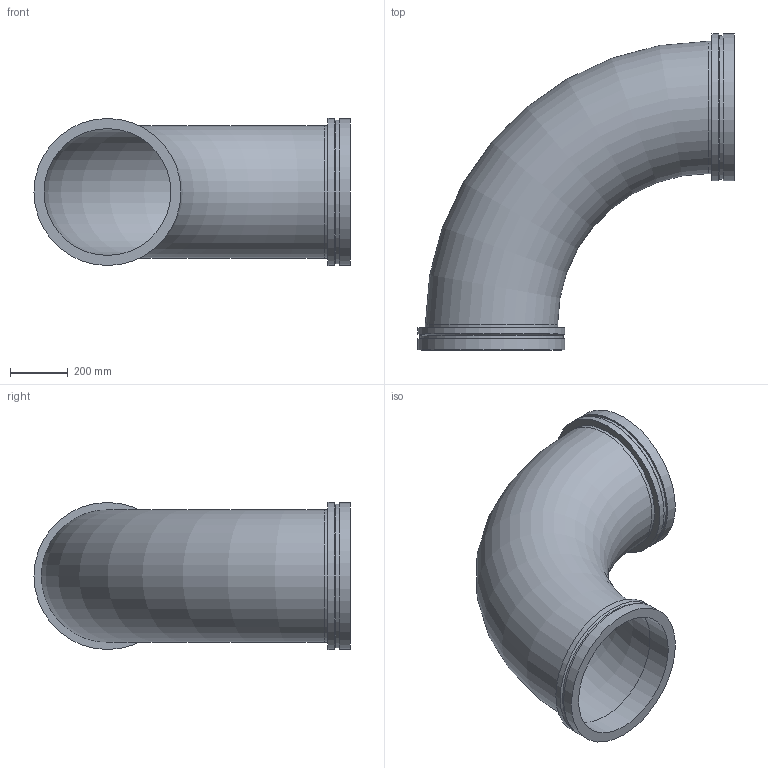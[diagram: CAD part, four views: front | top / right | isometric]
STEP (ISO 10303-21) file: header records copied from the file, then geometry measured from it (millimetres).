
FILE_DESCRIPTION(/* description */ ('VIC 90 DEG ELBOW No W100 VR','CAx-IF Rec.Pracs.---Representation and Presentation of Product Manufacturing Information (PMI)---4.0---2014-10-13'),/* implementation_level */ '2;1');
FILE_NAME(/* name */ 'C:\Users\kkamble\AppData\Roaming\Autodesk\ApplicationPlugins\Back Up\Victaulic_Vic-Ring_Elbow 90 Deg LR_No W100 VR (AGR)\Victaulic_Vic-Ring_Elbow 90 Deg LR_No W100 VR (AGR)_18 (450).stp',/* time_stamp */ '2020-09-10T11:43:48+05:00',/* author */ ('cps_temp'),/* organization */ ('Victaulic'),/* preprocessor_version */ 'ST-DEVELOPER v17.2',/* originating_system */ 'Autodesk Inventor 2019',/* authorisation */ '');
FILE_SCHEMA (('AP242_MANAGED_MODEL_BASED_3D_ENGINEERING_MIM_LF { 1 0 10303 442 1 1 4 }'));
Length unit declared in the file: inch
Products named in the file (1): W100 VR-18.0
Bounding box: 1092.2 x 1092.2 x 508 mm (x, y, z)
Volume: 23733005.2 mm3; surface area: 4044175.2 mm2
Topology: 1 solids, 1 shells, 20 faces, 51 edges, 37 vertices
Faces by surface type: cylinder 10, plane 6, cone 2, torus 2
Full cylindrical faces by diameter (mm): 438.15 x2, 457.2 x2, 495.3 x2, 508 x4
Entity records: 802 total; most frequent: DIRECTION 158, CARTESIAN_POINT 126, ORIENTED_EDGE 102, AXIS2_PLACEMENT_3D 73, EDGE_CURVE 51, CIRCLE 39, VERTEX_POINT 37, EDGE_LOOP 26
